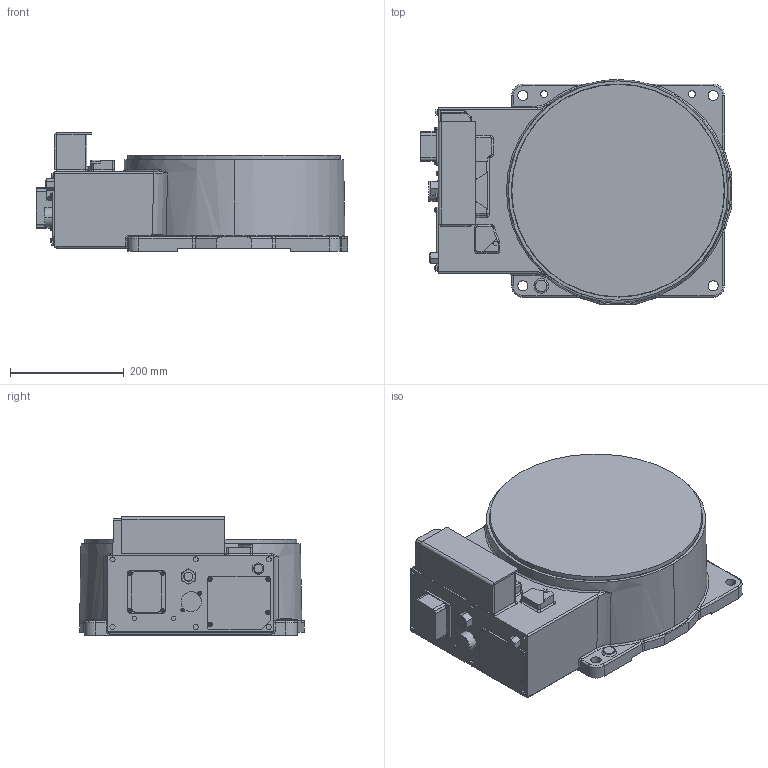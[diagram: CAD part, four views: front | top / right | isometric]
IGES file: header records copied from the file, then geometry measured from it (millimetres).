
Start section:  PTC IGES file: base_axis.igs
Global section: file name: base_axis.igs; native system: Creo Parametric by Parametric Technology Corporation; preprocessor: 2014000; author: Miyoshi_Nozomi; organization: Unknown; date: 20170720.143026; units: millimetre
Bounding box: 547.85 x 395.46 x 208.2 mm (x, y, z)
Volume: 26059783.3 mm3; surface area: 702044.6 mm2
Topology: 1 solids, 1 shells, 861 faces, 2157 edges, 1327 vertices
Faces by surface type: bspline 533, revolution 328
